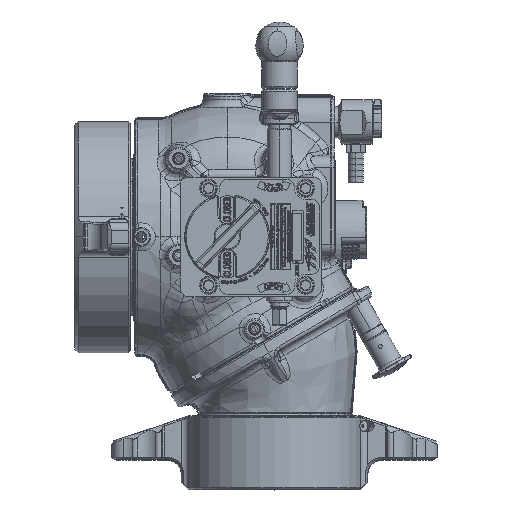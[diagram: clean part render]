
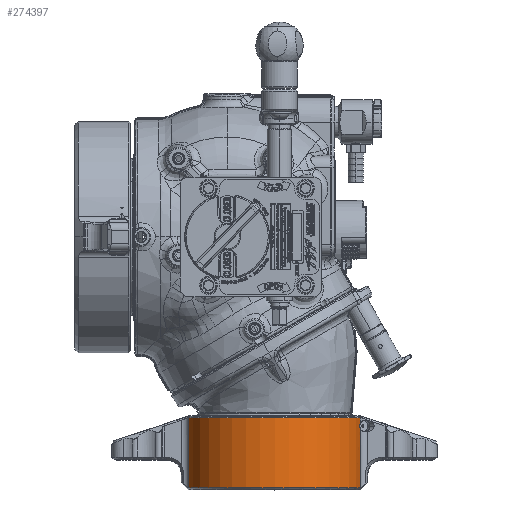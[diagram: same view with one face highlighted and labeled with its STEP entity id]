
A CAD part, top view. The second image highlights one B-rep face of the part: STEP entity #274397.
In plain terms, the highlighted cylindrical face has radius 74.93 mm (diameter 149.86 mm), a partial arc.
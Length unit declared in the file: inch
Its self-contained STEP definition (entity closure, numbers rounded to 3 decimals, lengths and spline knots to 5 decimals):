
#909 = CARTESIAN_POINT ( 'NONE',  ( 4.4421, -6.32539, 0.74152 ) ) ;
#2716 = CARTESIAN_POINT ( 'NONE',  ( 4.44552, -6.36663, 0.72826 ) ) ;
#3645 = CARTESIAN_POINT ( 'NONE',  ( 4.46011, -6.41501, 0.66836 ) ) ;
#11388 = FACE_OUTER_BOUND ( 'NONE', #264752, .T. ) ;
#15558 = AXIS2_PLACEMENT_3D ( 'NONE', #161667, #54462, #212443 ) ;
#17816 = CARTESIAN_POINT ( 'NONE',  ( 4.45257, -6.26752, 0.70003 ) ) ;
#18725 = CARTESIAN_POINT ( 'NONE',  ( 4.44367, -6.3066, 0.73548 ) ) ;
#21034 = ORIENTED_EDGE ( 'NONE', *, *, #72438, .F. ) ;
#28003 = ORIENTED_EDGE ( 'NONE', *, *, #200174, .T. ) ;
#40427 = CARTESIAN_POINT ( 'NONE',  ( 4.44311, -6.31109, 0.73765 ) ) ;
#41762 = DIRECTION ( 'NONE',  ( 0., -1., 0. ) ) ;
#42274 = CARTESIAN_POINT ( 'NONE',  ( 4.46011, -6.24617, 0.66836 ) ) ;
#47596 = EDGE_CURVE ( 'NONE', #211784, #216871, #169420, .T. ) ;
#53393 = LINE ( 'NONE', #169722, #140862 ) ;
#54462 = DIRECTION ( 'NONE',  ( 0., -1., 0. ) ) ;
#69054 = VECTOR ( 'NONE', #185706, 39.37008 ) ;
#72438 = EDGE_CURVE ( 'NONE', #184354, #211784, #53393, .T. ) ;
#74399 = DIRECTION ( 'NONE',  ( 0., 1., 0. ) ) ;
#80382 = AXIS2_PLACEMENT_3D ( 'NONE', #225993, #74399, #90235 ) ;
#80753 = CARTESIAN_POINT ( 'NONE',  ( 4.46011, -8.40309, 0.66836 ) ) ;
#88226 = CARTESIAN_POINT ( 'NONE',  ( 4.45064, -6.38734, 0.70788 ) ) ;
#88282 = DIRECTION ( 'NONE',  ( 0., -1., 0. ) ) ;
#90235 = DIRECTION ( 'NONE',  ( -1., 0., 0. ) ) ;
#104327 = CARTESIAN_POINT ( 'NONE',  ( 4.4582, -6.25111, 0.67659 ) ) ;
#111705 = CARTESIAN_POINT ( 'NONE',  ( 4.44359, -6.354, 0.73578 ) ) ;
#114220 = CARTESIAN_POINT ( 'NONE',  ( -1.28647, -6.04826, 0.66836 ) ) ;
#117759 = VECTOR ( 'NONE', #266143, 39.37008 ) ;
#119110 = CYLINDRICAL_SURFACE ( 'NONE', #15558, 2.95 ) ;
#119298 = EDGE_CURVE ( 'NONE', #216871, #205700, #123067, .T. ) ;
#123067 = LINE ( 'NONE', #249922, #69054 ) ;
#125132 = CARTESIAN_POINT ( 'NONE',  ( 4.4563, -6.25632, 0.6846 ) ) ;
#126055 = CARTESIAN_POINT ( 'NONE',  ( 4.44728, -6.28671, 0.72132 ) ) ;
#130642 = CARTESIAN_POINT ( 'NONE',  ( 4.44209, -6.33524, 0.74158 ) ) ;
#140862 = VECTOR ( 'NONE', #41762, 39.37008 ) ;
#146758 = CARTESIAN_POINT ( 'NONE',  ( 4.45074, -6.27348, 0.70746 ) ) ;
#151893 = ORIENTED_EDGE ( 'NONE', *, *, #200971, .T. ) ;
#152345 = CARTESIAN_POINT ( 'NONE',  ( 1.58682, -6.04826, 0. ) ) ;
#156081 = CIRCLE ( 'NONE', #268495, 2.95 ) ;
#158651 = CARTESIAN_POINT ( 'NONE',  ( -1.28647, -8.40309, 0.66836 ) ) ;
#159339 = ORIENTED_EDGE ( 'NONE', *, *, #204354, .T. ) ;
#161667 = CARTESIAN_POINT ( 'NONE',  ( 1.58682, -5.94059, 0. ) ) ;
#168261 = LINE ( 'NONE', #177518, #117759 ) ;
#168906 = CARTESIAN_POINT ( 'NONE',  ( 4.46011, -6.24617, 0.66836 ) ) ;
#169321 = CARTESIAN_POINT ( 'NONE',  ( 4.44561, -6.29408, 0.72789 ) ) ;
#169420 = B_SPLINE_CURVE_WITH_KNOTS ( 'NONE', 3,
 ( #42274, #104327, #125132, #17816, #146758, #126055, #169321, #18725, #40427, #219195, #909, #130642, #240892, #176703, #111705, #2716, #239034, #88226, #218227, #239979, #220125, #3645 ),
 .UNSPECIFIED., .F., .F.,
 ( 4, 2, 2, 2, 2, 2, 2, 2, 2, 2, 4 ),
 ( 0., 0.00074, 0.00148, 0.00222, 0.00259, 0.00296, 0.00333, 0.0037, 0.00444, 0.00517, 0.00591 ),
 .UNSPECIFIED. ) ;
#169722 = CARTESIAN_POINT ( 'NONE',  ( 4.46011, -5.94059, 0.66836 ) ) ;
#176703 = CARTESIAN_POINT ( 'NONE',  ( 4.44305, -6.34958, 0.73786 ) ) ;
#177518 = CARTESIAN_POINT ( 'NONE',  ( -1.28647, -5.94059, 0.66836 ) ) ;
#184354 = VERTEX_POINT ( 'NONE', #235042 ) ;
#185706 = DIRECTION ( 'NONE',  ( 0., -1., 0. ) ) ;
#188447 = CARTESIAN_POINT ( 'NONE',  ( 4.46011, -6.41501, 0.66836 ) ) ;
#191250 = CIRCLE ( 'NONE', #80382, 2.95 ) ;
#196214 = VERTEX_POINT ( 'NONE', #114220 ) ;
#200174 = EDGE_CURVE ( 'NONE', #196214, #208463, #168261, .T. ) ;
#200971 = EDGE_CURVE ( 'NONE', #208463, #205700, #191250, .T. ) ;
#204354 = EDGE_CURVE ( 'NONE', #184354, #196214, #156081, .T. ) ;
#205700 = VERTEX_POINT ( 'NONE', #80753 ) ;
#208463 = VERTEX_POINT ( 'NONE', #158651 ) ;
#211784 = VERTEX_POINT ( 'NONE', #168906 ) ;
#212443 = DIRECTION ( 'NONE',  ( 1., 0., 0. ) ) ;
#215511 = DIRECTION ( 'NONE',  ( -1., 0., 0. ) ) ;
#216777 = ORIENTED_EDGE ( 'NONE', *, *, #47596, .F. ) ;
#216871 = VERTEX_POINT ( 'NONE', #188447 ) ;
#218227 = CARTESIAN_POINT ( 'NONE',  ( 4.4525, -6.39344, 0.70031 ) ) ;
#219195 = CARTESIAN_POINT ( 'NONE',  ( 4.44233, -6.32043, 0.74066 ) ) ;
#220125 = CARTESIAN_POINT ( 'NONE',  ( 4.45818, -6.41003, 0.67664 ) ) ;
#225993 = CARTESIAN_POINT ( 'NONE',  ( 1.58682, -8.40309, 0. ) ) ;
#235042 = CARTESIAN_POINT ( 'NONE',  ( 4.46011, -6.04826, 0.66836 ) ) ;
#239034 = CARTESIAN_POINT ( 'NONE',  ( 4.44716, -6.37394, 0.72181 ) ) ;
#239979 = CARTESIAN_POINT ( 'NONE',  ( 4.45627, -6.40477, 0.68472 ) ) ;
#240892 = CARTESIAN_POINT ( 'NONE',  ( 4.44229, -6.34016, 0.74079 ) ) ;
#249922 = CARTESIAN_POINT ( 'NONE',  ( 4.46011, -5.94059, 0.66836 ) ) ;
#261737 = ORIENTED_EDGE ( 'NONE', *, *, #119298, .F. ) ;
#264752 = EDGE_LOOP ( 'NONE', ( #21034, #159339, #28003, #151893, #261737, #216777 ) ) ;
#266143 = DIRECTION ( 'NONE',  ( 0., -1., 0. ) ) ;
#268495 = AXIS2_PLACEMENT_3D ( 'NONE', #152345, #88282, #215511 ) ;
#274397 = ADVANCED_FACE ( 'NONE', ( #11388 ), #119110, .T. ) ;
